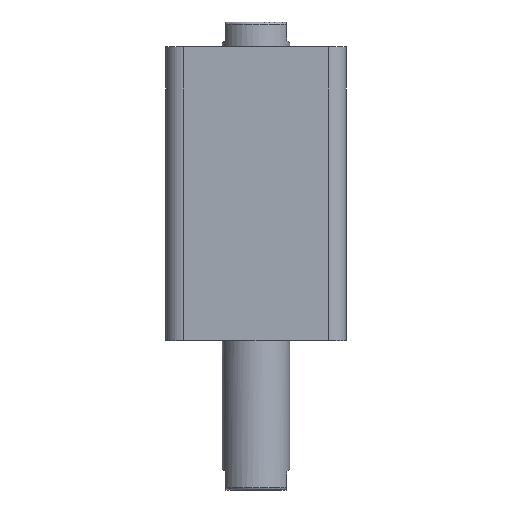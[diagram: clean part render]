
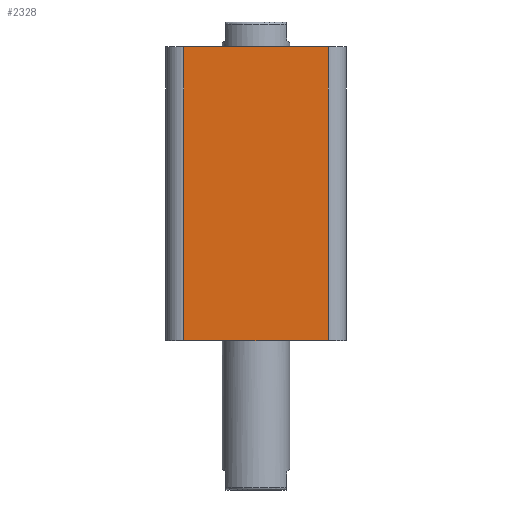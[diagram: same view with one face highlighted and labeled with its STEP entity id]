
A CAD part, front view. The second image highlights one B-rep face of the part: STEP entity #2328.
In plain terms, the highlighted planar face has unit normal (0, -1, 0).
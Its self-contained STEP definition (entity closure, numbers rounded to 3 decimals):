
#56 = VERTEX_POINT ( 'NONE', #2387 ) ;
#60 = VERTEX_POINT ( 'NONE', #2389 ) ;
#62 = VERTEX_POINT ( 'NONE', #2391 ) ;
#168 = EDGE_CURVE ( 'NONE', #62, #60, #1648, .T. ) ;
#231 = EDGE_CURVE ( 'NONE', #1396, #60, #1729, .T. ) ;
#270 = EDGE_CURVE ( 'NONE', #56, #62, #1784, .T. ) ;
#297 = EDGE_CURVE ( 'NONE', #1396, #56, #1825, .T. ) ;
#516 = AXIS2_PLACEMENT_3D ( 'NONE', #795, #806, #807 ) ;
#629 = CARTESIAN_POINT ( 'NONE',  ( -32., -40., 130. ) ) ;
#795 = CARTESIAN_POINT ( 'NONE',  ( -40., -40., 130. ) ) ;
#804 = PLANE ( 'NONE',  #516 ) ;
#806 = DIRECTION ( 'NONE',  ( 0., 1., 0. ) ) ;
#807 = DIRECTION ( 'NONE',  ( 0., 0., 1. ) ) ;
#1396 = VERTEX_POINT ( 'NONE', #629 ) ;
#1648 = LINE ( 'NONE', #3235, #1653 ) ;
#1653 = VECTOR ( 'NONE', #3240, 1000. ) ;
#1729 = LINE ( 'NONE', #1892, #1731 ) ;
#1731 = VECTOR ( 'NONE', #1888, 1000. ) ;
#1784 = LINE ( 'NONE', #1994, #1787 ) ;
#1787 = VECTOR ( 'NONE', #1995, 1000. ) ;
#1825 = LINE ( 'NONE', #2063, #1828 ) ;
#1828 = VECTOR ( 'NONE', #2064, 1000. ) ;
#1888 = DIRECTION ( 'NONE',  ( 1., 0., 0. ) ) ;
#1892 = CARTESIAN_POINT ( 'NONE',  ( -40., -40., 130. ) ) ;
#1994 = CARTESIAN_POINT ( 'NONE',  ( -40., -40., 0. ) ) ;
#1995 = DIRECTION ( 'NONE',  ( 1., 0., 0. ) ) ;
#2063 = CARTESIAN_POINT ( 'NONE',  ( -32., -40., 130. ) ) ;
#2064 = DIRECTION ( 'NONE',  ( 0., 0., -1. ) ) ;
#2328 = ADVANCED_FACE ( 'NONE', ( #2511 ), #804, .F. ) ;
#2387 = CARTESIAN_POINT ( 'NONE',  ( -32., -40., 0. ) ) ;
#2389 = CARTESIAN_POINT ( 'NONE',  ( 32., -40., 130. ) ) ;
#2391 = CARTESIAN_POINT ( 'NONE',  ( 32., -40., 0. ) ) ;
#2511 = FACE_OUTER_BOUND ( 'NONE', #3078, .T. ) ;
#2934 = ORIENTED_EDGE ( 'NONE', *, *, #168, .T. ) ;
#2948 = ORIENTED_EDGE ( 'NONE', *, *, #270, .T. ) ;
#2951 = ORIENTED_EDGE ( 'NONE', *, *, #297, .T. ) ;
#2987 = ORIENTED_EDGE ( 'NONE', *, *, #231, .F. ) ;
#3078 = EDGE_LOOP ( 'NONE', ( #2987, #2951, #2948, #2934 ) ) ;
#3235 = CARTESIAN_POINT ( 'NONE',  ( 32., -40., 130. ) ) ;
#3240 = DIRECTION ( 'NONE',  ( 0., 0., 1. ) ) ;
